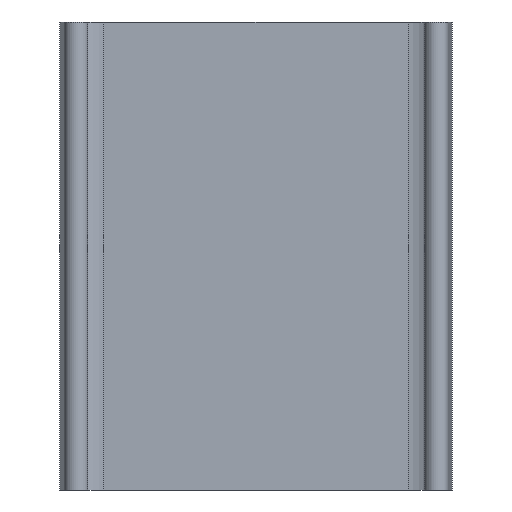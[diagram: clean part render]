
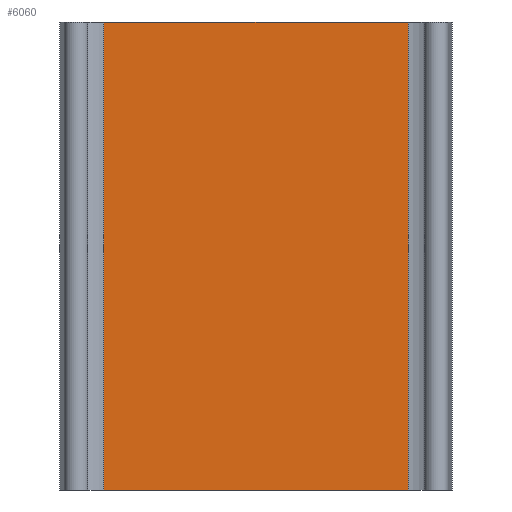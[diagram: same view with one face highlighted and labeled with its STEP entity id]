
A CAD part, front view. The second image highlights one B-rep face of the part: STEP entity #6060.
In plain terms, the highlighted planar face has unit normal (0, -1, 0).
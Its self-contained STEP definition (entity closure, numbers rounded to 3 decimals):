
#130=CARTESIAN_POINT('',(-32.5,31.5,0.));
#140=VERTEX_POINT('',#130);
#1740=CARTESIAN_POINT('',(32.5,31.5,0.));
#1750=VERTEX_POINT('',#1740);
#1780=CARTESIAN_POINT('',(38.5,31.5,0.));
#1790=DIRECTION('',(1.,0.,0.));
#1800=VECTOR('',#1790,1.);
#1810=LINE('',#1780,#1800);
#1820=EDGE_CURVE('',#140,#1750,#1810,.T.);
#3990=CARTESIAN_POINT('',(-32.5,31.5,-100.));
#4000=VERTEX_POINT('',#3990);
#4030=CARTESIAN_POINT('',(38.5,31.5,-100.));
#4040=DIRECTION('',(1.,0.,0.));
#4050=VECTOR('',#4040,1.);
#4060=LINE('',#4030,#4050);
#4070=CARTESIAN_POINT('',(32.5,31.5,-100.));
#4080=VERTEX_POINT('',#4070);
#4090=EDGE_CURVE('',#4000,#4080,#4060,.T.);
#5850=CARTESIAN_POINT('',(32.5,31.5,0.));
#5860=DIRECTION('',(-0.,1.,0.));
#5870=DIRECTION('',(1.,0.,0.));
#5880=AXIS2_PLACEMENT_3D('',#5850,#5860,#5870);
#5890=PLANE('',#5880);
#5900=CARTESIAN_POINT('',(-32.5,31.5,0.));
#5910=DIRECTION('',(0.,0.,-1.));
#5920=VECTOR('',#5910,1.);
#5930=LINE('',#5900,#5920);
#5940=EDGE_CURVE('',#140,#4000,#5930,.T.);
#5950=ORIENTED_EDGE('',*,*,#5940,.T.);
#5960=ORIENTED_EDGE('',*,*,#1820,.F.);
#5970=CARTESIAN_POINT('',(32.5,31.5,0.));
#5980=DIRECTION('',(0.,0.,-1.));
#5990=VECTOR('',#5980,1.);
#6000=LINE('',#5970,#5990);
#6010=EDGE_CURVE('',#1750,#4080,#6000,.T.);
#6020=ORIENTED_EDGE('',*,*,#6010,.F.);
#6030=ORIENTED_EDGE('',*,*,#4090,.T.);
#6040=EDGE_LOOP('',(#6030,#6020,#5960,#5950));
#6050=FACE_OUTER_BOUND('',#6040,.T.);
#6060=ADVANCED_FACE('',(#6050),#5890,.F.);
